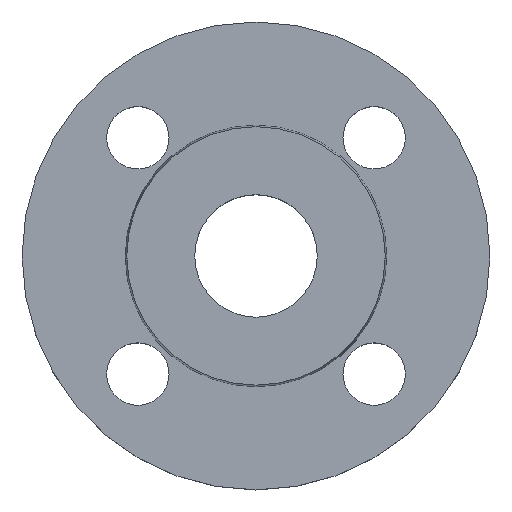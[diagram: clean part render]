
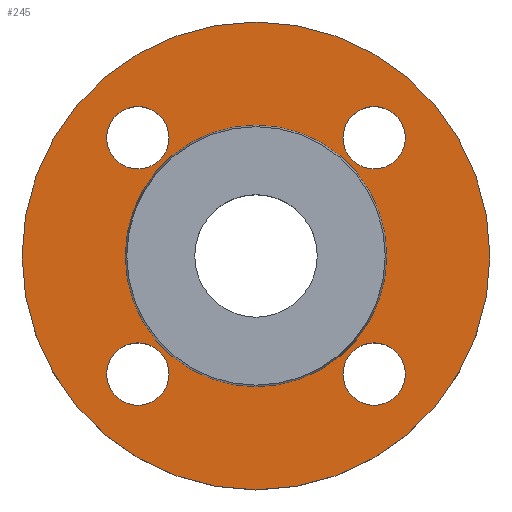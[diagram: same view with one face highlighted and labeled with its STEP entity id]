
A CAD part, top view. The second image highlights one B-rep face of the part: STEP entity #245.
In plain terms, the highlighted planar face has unit normal (0, 0, 1).
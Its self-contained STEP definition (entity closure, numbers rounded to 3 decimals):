
#7 = CIRCLE ( 'NONE', #8, 29.353 ) ;
#8 = AXIS2_PLACEMENT_3D ( 'NONE', #78, #110, #76 ) ;
#39 = CARTESIAN_POINT ( 'NONE',  ( 33.517, -26.517, -2. ) ) ;
#47 = CARTESIAN_POINT ( 'NONE',  ( 29.353, 0., -2. ) ) ;
#50 = CARTESIAN_POINT ( 'NONE',  ( 52.5, 0., -2. ) ) ;
#51 = CARTESIAN_POINT ( 'NONE',  ( -29.353, 0., -2. ) ) ;
#55 = CARTESIAN_POINT ( 'NONE',  ( 0., 0., -2. ) ) ;
#58 = DIRECTION ( 'NONE',  ( 0., 0., -1. ) ) ;
#65 = AXIS2_PLACEMENT_3D ( 'NONE', #226, #227, #231 ) ;
#66 = AXIS2_PLACEMENT_3D ( 'NONE', #208, #210, #211 ) ;
#76 = DIRECTION ( 'NONE',  ( -1., 0., 0. ) ) ;
#78 = CARTESIAN_POINT ( 'NONE',  ( 0., 0., -2. ) ) ;
#95 = AXIS2_PLACEMENT_3D ( 'NONE', #653, #654, #655 ) ;
#96 = CIRCLE ( 'NONE', #95, 7. ) ;
#97 = CIRCLE ( 'NONE', #66, 7. ) ;
#101 = AXIS2_PLACEMENT_3D ( 'NONE', #698, #121, #693 ) ;
#104 = CARTESIAN_POINT ( 'NONE',  ( 19.517, 26.517, -2. ) ) ;
#107 = EDGE_CURVE ( 'NONE', #609, #582, #96, .T. ) ;
#108 = DIRECTION ( 'NONE',  ( -1., 0., 0. ) ) ;
#110 = DIRECTION ( 'NONE',  ( 0., 0., -1. ) ) ;
#114 = CARTESIAN_POINT ( 'NONE',  ( 33.517, 26.517, -2. ) ) ;
#117 = AXIS2_PLACEMENT_3D ( 'NONE', #400, #401, #403 ) ;
#121 = DIRECTION ( 'NONE',  ( 0., 0., -1. ) ) ;
#123 = AXIS2_PLACEMENT_3D ( 'NONE', #404, #405, #406 ) ;
#131 = CARTESIAN_POINT ( 'NONE',  ( -19.517, 26.517, -2. ) ) ;
#133 = CARTESIAN_POINT ( 'NONE',  ( 19.517, -26.517, -2. ) ) ;
#139 = AXIS2_PLACEMENT_3D ( 'NONE', #205, #206, #207 ) ;
#140 = CIRCLE ( 'NONE', #139, 7. ) ;
#142 = AXIS2_PLACEMENT_3D ( 'NONE', #192, #203, #204 ) ;
#162 = CIRCLE ( 'NONE', #346, 7. ) ;
#188 = CARTESIAN_POINT ( 'NONE',  ( -26.517, 26.517, -2. ) ) ;
#189 = DIRECTION ( 'NONE',  ( 0., 0., -1. ) ) ;
#190 = DIRECTION ( 'NONE',  ( 1., 0., 0. ) ) ;
#192 = CARTESIAN_POINT ( 'NONE',  ( 26.517, -26.517, -2. ) ) ;
#203 = DIRECTION ( 'NONE',  ( 0., 0., -1. ) ) ;
#204 = DIRECTION ( 'NONE',  ( 1., 0., 0. ) ) ;
#205 = CARTESIAN_POINT ( 'NONE',  ( 26.517, 26.517, -2. ) ) ;
#206 = DIRECTION ( 'NONE',  ( 0., 0., -1. ) ) ;
#207 = DIRECTION ( 'NONE',  ( 1., 0., 0. ) ) ;
#208 = CARTESIAN_POINT ( 'NONE',  ( 26.517, 26.517, -2. ) ) ;
#210 = DIRECTION ( 'NONE',  ( 0., 0., -1. ) ) ;
#211 = DIRECTION ( 'NONE',  ( 1., 0., 0. ) ) ;
#214 = FACE_BOUND ( 'NONE', #472, .T. ) ;
#215 = FACE_BOUND ( 'NONE', #433, .T. ) ;
#218 = FACE_BOUND ( 'NONE', #412, .T. ) ;
#219 = FACE_BOUND ( 'NONE', #502, .T. ) ;
#220 = FACE_BOUND ( 'NONE', #498, .T. ) ;
#221 = EDGE_CURVE ( 'NONE', #581, #595, #162, .T. ) ;
#223 = EDGE_CURVE ( 'NONE', #582, #609, #358, .T. ) ;
#224 = FACE_OUTER_BOUND ( 'NONE', #492, .T. ) ;
#225 = PLANE ( 'NONE',  #65 ) ;
#226 = CARTESIAN_POINT ( 'NONE',  ( 29.353, 0., -2. ) ) ;
#227 = DIRECTION ( 'NONE',  ( 0., 0., 1. ) ) ;
#231 = DIRECTION ( 'NONE',  ( 1., 0., 0. ) ) ;
#237 = EDGE_CURVE ( 'NONE', #556, #587, #140, .T. ) ;
#244 = EDGE_CURVE ( 'NONE', #587, #556, #97, .T. ) ;
#245 = ADVANCED_FACE ( 'NONE', ( #214, #215, #218, #219, #220, #224 ), #225, .T. ) ;
#272 = AXIS2_PLACEMENT_3D ( 'NONE', #362, #363, #365 ) ;
#274 = CIRCLE ( 'NONE', #300, 52.5 ) ;
#283 = CIRCLE ( 'NONE', #272, 52.5 ) ;
#285 = CARTESIAN_POINT ( 'NONE',  ( -26.517, 26.517, -2. ) ) ;
#286 = DIRECTION ( 'NONE',  ( 0., 0., -1. ) ) ;
#287 = DIRECTION ( 'NONE',  ( 1., 0., 0. ) ) ;
#300 = AXIS2_PLACEMENT_3D ( 'NONE', #55, #58, #108 ) ;
#302 = CIRCLE ( 'NONE', #343, 7. ) ;
#303 = EDGE_CURVE ( 'NONE', #595, #581, #302, .T. ) ;
#324 = CIRCLE ( 'NONE', #123, 29.353 ) ;
#334 = EDGE_CURVE ( 'NONE', #605, #586, #283, .T. ) ;
#343 = AXIS2_PLACEMENT_3D ( 'NONE', #285, #286, #287 ) ;
#346 = AXIS2_PLACEMENT_3D ( 'NONE', #188, #189, #190 ) ;
#356 = EDGE_CURVE ( 'NONE', #571, #415, #357, .T. ) ;
#357 = CIRCLE ( 'NONE', #117, 7. ) ;
#358 = CIRCLE ( 'NONE', #142, 7. ) ;
#362 = CARTESIAN_POINT ( 'NONE',  ( 0., 0., -2. ) ) ;
#363 = DIRECTION ( 'NONE',  ( 0., 0., -1. ) ) ;
#365 = DIRECTION ( 'NONE',  ( -1., 0., 0. ) ) ;
#373 = EDGE_CURVE ( 'NONE', #603, #601, #324, .T. ) ;
#375 = CIRCLE ( 'NONE', #101, 7. ) ;
#400 = CARTESIAN_POINT ( 'NONE',  ( -26.517, -26.517, -2. ) ) ;
#401 = DIRECTION ( 'NONE',  ( 0., 0., -1. ) ) ;
#403 = DIRECTION ( 'NONE',  ( 1., 0., 0. ) ) ;
#404 = CARTESIAN_POINT ( 'NONE',  ( 0., 0., -2. ) ) ;
#405 = DIRECTION ( 'NONE',  ( 0., 0., -1. ) ) ;
#406 = DIRECTION ( 'NONE',  ( -1., 0., 0. ) ) ;
#412 = EDGE_LOOP ( 'NONE', ( #494, #495 ) ) ;
#415 = VERTEX_POINT ( 'NONE', #679 ) ;
#432 = EDGE_CURVE ( 'NONE', #586, #605, #274, .T. ) ;
#433 = EDGE_LOOP ( 'NONE', ( #489, #493 ) ) ;
#472 = EDGE_LOOP ( 'NONE', ( #487, #488 ) ) ;
#487 = ORIENTED_EDGE ( 'NONE', *, *, #107, .T. ) ;
#488 = ORIENTED_EDGE ( 'NONE', *, *, #223, .T. ) ;
#489 = ORIENTED_EDGE ( 'NONE', *, *, #356, .T. ) ;
#492 = EDGE_LOOP ( 'NONE', ( #504, #506 ) ) ;
#493 = ORIENTED_EDGE ( 'NONE', *, *, #522, .T. ) ;
#494 = ORIENTED_EDGE ( 'NONE', *, *, #303, .T. ) ;
#495 = ORIENTED_EDGE ( 'NONE', *, *, #221, .T. ) ;
#497 = ORIENTED_EDGE ( 'NONE', *, *, #244, .T. ) ;
#498 = EDGE_LOOP ( 'NONE', ( #501, #503 ) ) ;
#500 = ORIENTED_EDGE ( 'NONE', *, *, #237, .T. ) ;
#501 = ORIENTED_EDGE ( 'NONE', *, *, #373, .T. ) ;
#502 = EDGE_LOOP ( 'NONE', ( #497, #500 ) ) ;
#503 = ORIENTED_EDGE ( 'NONE', *, *, #539, .T. ) ;
#504 = ORIENTED_EDGE ( 'NONE', *, *, #334, .F. ) ;
#506 = ORIENTED_EDGE ( 'NONE', *, *, #432, .F. ) ;
#522 = EDGE_CURVE ( 'NONE', #415, #571, #375, .T. ) ;
#539 = EDGE_CURVE ( 'NONE', #601, #603, #7, .T. ) ;
#556 = VERTEX_POINT ( 'NONE', #104 ) ;
#571 = VERTEX_POINT ( 'NONE', #714 ) ;
#581 = VERTEX_POINT ( 'NONE', #716 ) ;
#582 = VERTEX_POINT ( 'NONE', #133 ) ;
#586 = VERTEX_POINT ( 'NONE', #671 ) ;
#587 = VERTEX_POINT ( 'NONE', #114 ) ;
#595 = VERTEX_POINT ( 'NONE', #131 ) ;
#601 = VERTEX_POINT ( 'NONE', #47 ) ;
#603 = VERTEX_POINT ( 'NONE', #51 ) ;
#605 = VERTEX_POINT ( 'NONE', #50 ) ;
#609 = VERTEX_POINT ( 'NONE', #39 ) ;
#653 = CARTESIAN_POINT ( 'NONE',  ( 26.517, -26.517, -2. ) ) ;
#654 = DIRECTION ( 'NONE',  ( 0., 0., -1. ) ) ;
#655 = DIRECTION ( 'NONE',  ( 1., 0., 0. ) ) ;
#671 = CARTESIAN_POINT ( 'NONE',  ( -52.5, 0., -2. ) ) ;
#679 = CARTESIAN_POINT ( 'NONE',  ( -33.517, -26.517, -2. ) ) ;
#693 = DIRECTION ( 'NONE',  ( 1., 0., 0. ) ) ;
#698 = CARTESIAN_POINT ( 'NONE',  ( -26.517, -26.517, -2. ) ) ;
#714 = CARTESIAN_POINT ( 'NONE',  ( -19.517, -26.517, -2. ) ) ;
#716 = CARTESIAN_POINT ( 'NONE',  ( -33.517, 26.517, -2. ) ) ;
